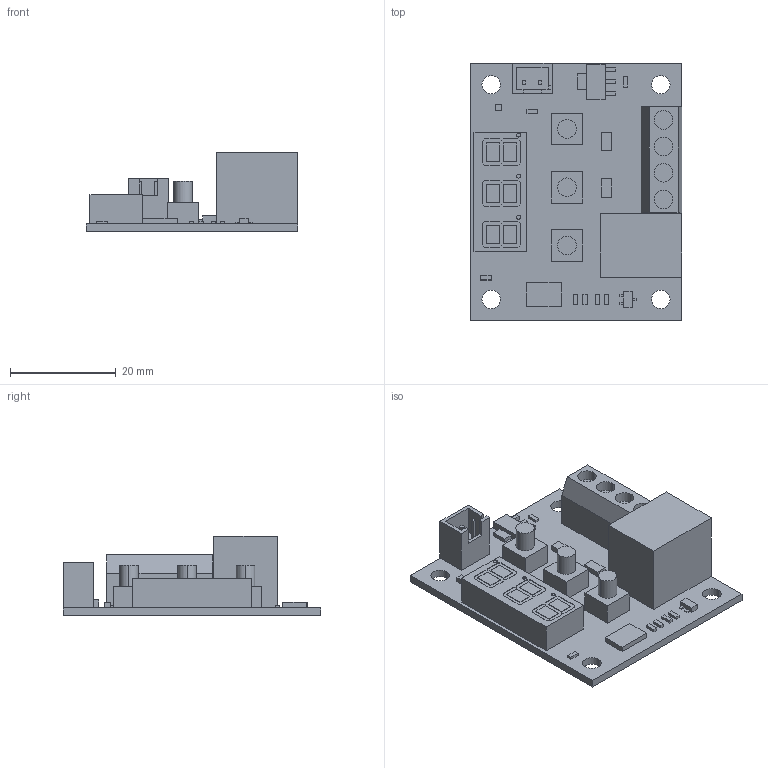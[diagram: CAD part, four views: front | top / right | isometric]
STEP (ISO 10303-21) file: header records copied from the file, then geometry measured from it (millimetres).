
FILE_DESCRIPTION(('CATIA V5 STEP Exchange'),'2;1');
FILE_NAME('X:\XDrive\---CAD---\--- Haus CAD ---\PV-Anlage\PV-Lüfter\Temperatur-Schalter\W1209_Temperatur-Schalter.stp','2022-11-08T20:21:55+00:00',('none'),('none'),'CATIA Version 5 Release 19 SP 2 (IN-10)','CATIA V5 STEP AP203','none');
FILE_SCHEMA(('CONFIG_CONTROL_DESIGN'));
Length unit declared in the file: millimetre
Products named in the file (1): W1209_Temperatur-Schalter
Bounding box: 40 x 48.6 x 15 mm (x, y, z)
Volume: 8759.9 mm3; surface area: 8421.5 mm2
Topology: 21 solids, 21 shells, 310 faces, 731 edges, 488 vertices
Faces by surface type: plane 282, cylinder 28
Entity records: 8199 total; most frequent: ORIENTED_EDGE 1462, CARTESIAN_POINT 1424, DIRECTION 1139, EDGE_CURVE 731, VECTOR 675, LINE 675, VERTEX_POINT 488, EDGE_LOOP 343
